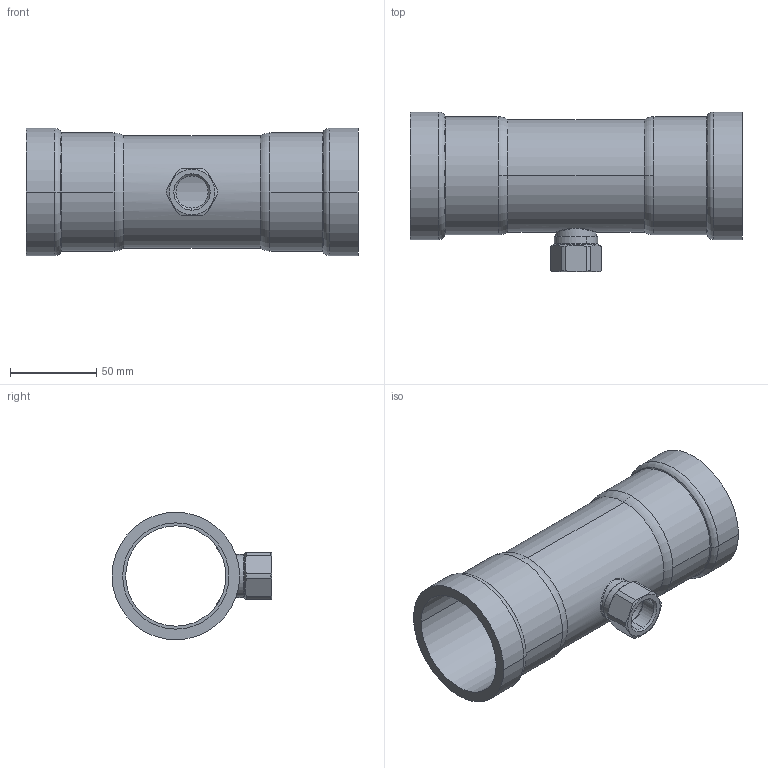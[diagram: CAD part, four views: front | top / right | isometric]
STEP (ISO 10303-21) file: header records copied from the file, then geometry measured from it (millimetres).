
FILE_DESCRIPTION(('Creo Elements/Direct Modeling STEP Export'),'2;1');
FILE_NAME('C9418_2_Rp1-2_2.stp','2020-07-17T 9:32:26',(''),(''),'PTC Creo Elements/Direct Modeling STEP processor for AP214 (Solid Model)','PTC Creo Elements/Direct Modeling 19.0C 15-Aug-2015 (C) Parametric Technology GmbH','');
FILE_SCHEMA(('AUTOMOTIVE_DESIGN { 1 0 10303 214 1 1 1 1 }'));
Length unit declared in the file: millimetre
Products named in the file (2): C9418_2_Rp1-2_2
Assembly tree (1 placements, depth 2):
  C9418_2_Rp1-2_2
    C9418_2_Rp1-2_2
Bounding box: 192.02 x 92.5 x 73.8 mm (x, y, z)
Volume: 161322.9 mm3; surface area: 84506.7 mm2
Topology: 1 solids, 1 shells, 78 faces, 204 edges, 132 vertices
Faces by surface type: cylinder 32, cone 16, torus 14, plane 12, bspline 4
Entity records: 5365 total; most frequent: CARTESIAN_POINT 3538, ORIENTED_EDGE 408, DIRECTION 342, EDGE_CURVE 204, AXIS2_PLACEMENT_3D 144, VERTEX_POINT 132, EDGE_LOOP 86, FACE_OUTER_BOUND 78
